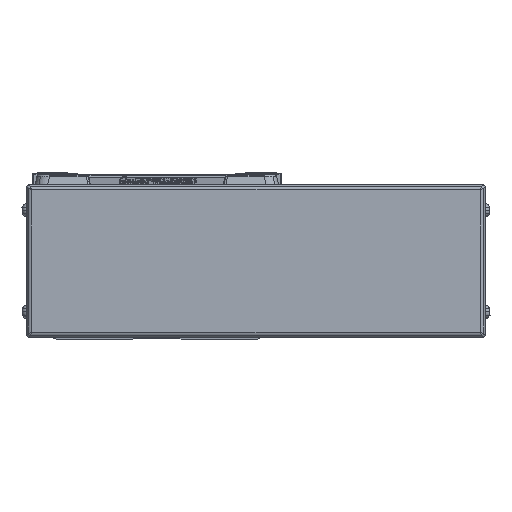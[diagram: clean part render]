
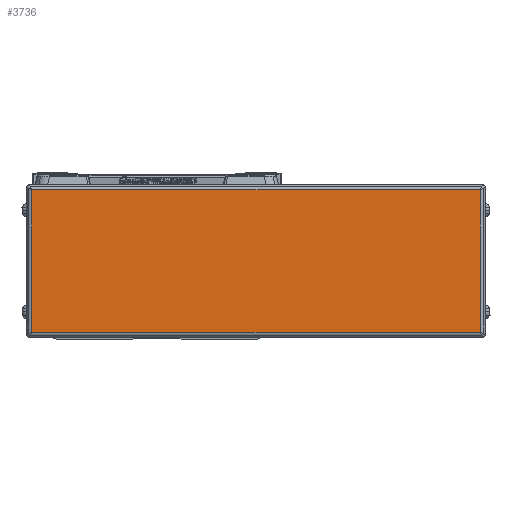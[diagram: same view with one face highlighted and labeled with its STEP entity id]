
A CAD part, left-side view. The second image highlights one B-rep face of the part: STEP entity #3736.
In plain terms, the highlighted planar face has unit normal (-1, 0, 0).
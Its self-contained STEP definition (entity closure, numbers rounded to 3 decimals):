
#3736=ADVANCED_FACE('',(#8476),#8477,.T.);
#8476=FACE_OUTER_BOUND('',#14811,.T.);
#8477=PLANE('',#14812);
#14811=EDGE_LOOP('',(#25863,#25864,#25865,#25866));
#14812=AXIS2_PLACEMENT_3D('',#25867,#25868,#25869);
#25863=ORIENTED_EDGE('',*,*,#39419,.F.);
#25864=ORIENTED_EDGE('',*,*,#39420,.F.);
#25865=ORIENTED_EDGE('',*,*,#36675,.F.);
#25866=ORIENTED_EDGE('',*,*,#35795,.F.);
#25867=CARTESIAN_POINT('',(-616.,-39.,0.));
#25868=DIRECTION('',(-1.0,0.,0.));
#25869=DIRECTION('',(0.,0.,1.0));
#35795=EDGE_CURVE('',#42807,#42809,#42810,.T.);
#36675=EDGE_CURVE('',#42809,#44391,#44392,.T.);
#39419=EDGE_CURVE('',#48628,#42807,#48629,.T.);
#39420=EDGE_CURVE('',#44391,#48628,#48630,.T.);
#42807=VERTEX_POINT('',#52828);
#42809=VERTEX_POINT('',#52830);
#42810=LINE('',#52831,#52832);
#44391=VERTEX_POINT('',#54931);
#44392=LINE('',#54932,#54933);
#48628=VERTEX_POINT('',#60883);
#48629=LINE('',#60884,#60885);
#48630=LINE('',#60886,#60887);
#52828=CARTESIAN_POINT('',(-616.,-127.2,28.));
#52830=CARTESIAN_POINT('',(-616.,-127.2,-28.));
#52831=CARTESIAN_POINT('',(-616.,-127.2,0.));
#52832=VECTOR('',#65728,10.0);
#54931=CARTESIAN_POINT('',(-616.0,49.2,-28.));
#54932=CARTESIAN_POINT('',(-616.,-39.,-28.));
#54933=VECTOR('',#67136,10.0);
#60883=CARTESIAN_POINT('',(-616.,49.2,28.));
#60884=CARTESIAN_POINT('',(-616.,-39.,28.));
#60885=VECTOR('',#70758,10.0);
#60886=CARTESIAN_POINT('',(-616.,49.2,0.));
#60887=VECTOR('',#70759,10.0);
#65728=DIRECTION('',(0.,0.,-1.0));
#67136=DIRECTION('',(0.,1.0,0.));
#70758=DIRECTION('',(0.,-1.0,0.));
#70759=DIRECTION('',(0.,0.,1.0));
